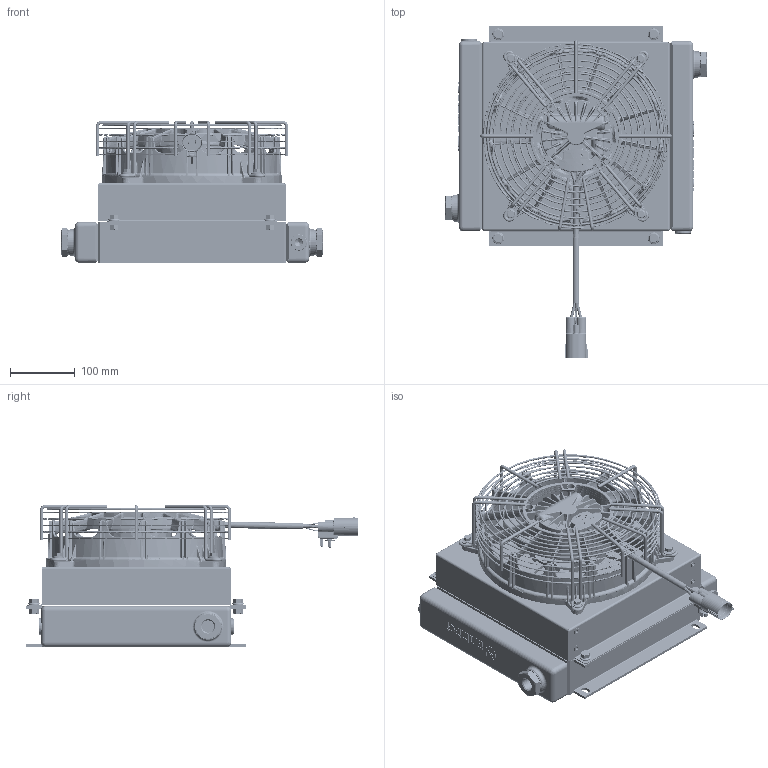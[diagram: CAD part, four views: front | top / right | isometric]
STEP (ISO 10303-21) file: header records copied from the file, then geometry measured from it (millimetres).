
FILE_DESCRIPTION (( 'STEP AP203' ), '1' );
FILE_NAME ('A32560.STEP', '2022-10-17T09:12:48', ( '' ), ( '' ), 'SwSTEP 2.0', 'SolidWorks 2021', '' );
FILE_SCHEMA (( 'CONFIG_CONTROL_DESIGN' ));
Length unit declared in the file: millimetre
Products named in the file (20): 57809; A32560; BU00015_DIN 6331-M6-C; hex nut gradec_din_Hexagon Nut ISO 4034 - M8 - N; 30538; A32567; 88406A; Rondelle ZINB ISO 7089 _Washer ISO 7089 - 8; 38907; A32569; 39238A; 43248B; A04027; Rondelle Grembialine ZINB DIN 522_DIN EN 28738 - 6.41; Viti TEFLZ ZINB DIN 6921_DIN 6921 - M8 x 16 x 16-C; Viti TEFLZ ZINB DIN 6921_DIN 6921 - M6 x 25 x 25-C; 72899A; 439020
Assembly tree (47 placements, depth 4):
  A32560
    39238A
      88406A
        88406A
        43248B  x2
      30538  x2
      57809  x2
      38907  x2
      439020  x2
      72899A  x2
    A32567
      A32567
      BU00015_DIN 6331-M6-C  x8
    A32569
    A04027
    Rondelle ZINB ISO 7089 _Washer ISO 7089 - 8  x4
    Viti TEFLZ ZINB DIN 6921_DIN 6921 - M8 x 16 x 16-C  x4
    hex nut gradec_din_Hexagon Nut ISO 4034 - M8 - N  x4
    Rondelle Grembialine ZINB DIN 522_DIN EN 28738 - 6.41  x4
    Viti TEFLZ ZINB DIN 6921_DIN 6921 - M6 x 25 x 25-C  x4
Bounding box: 403 x 512.5 x 218.8 mm (x, y, z)
Volume: 6852247.1 mm3; surface area: 1341785.8 mm2
Topology: 72 solids, 74 shells, 10792 faces, 26450 edges, 15804 vertices
Faces by surface type: bspline 3492, plane 2958, cylinder 2232, torus 1057, cone 782, sphere 271
Entity records: 520147 total; most frequent: CARTESIAN_POINT 312890, ORIENTED_EDGE 48516, DIRECTION 35140, EDGE_CURVE 24258, VERTEX_POINT 14529, AXIS2_PLACEMENT_3D 14146, EDGE_LOOP 10325, ADVANCED_FACE 9917
